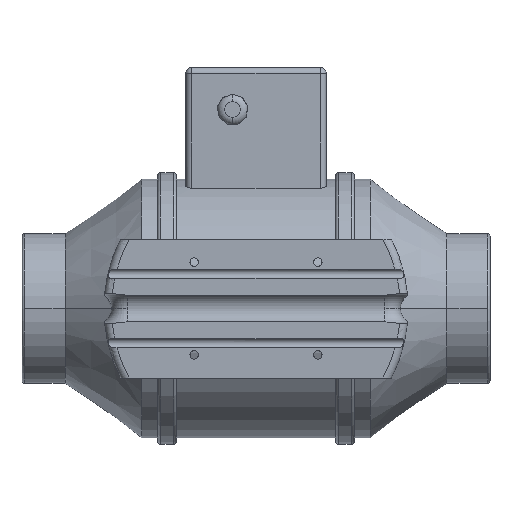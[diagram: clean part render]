
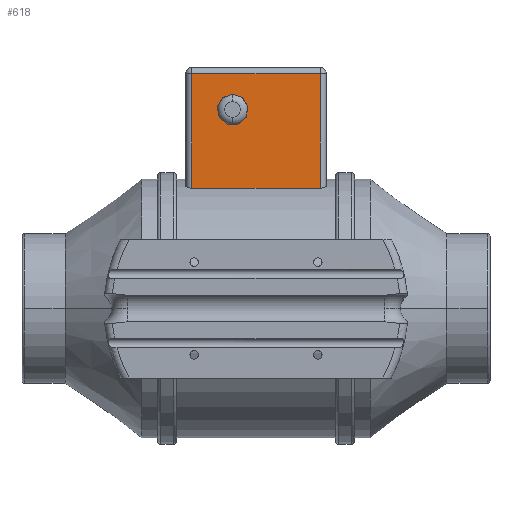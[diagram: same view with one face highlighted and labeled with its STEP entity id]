
A CAD part, front view. The second image highlights one B-rep face of the part: STEP entity #618.
In plain terms, the highlighted planar face has unit normal (0, -1, 0).
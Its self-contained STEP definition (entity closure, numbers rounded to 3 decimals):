
#618=ADVANCED_FACE('',(#1284,#1285),#1286,.T.);
#1284=FACE_OUTER_BOUND('',#1981,.T.);
#1285=FACE_BOUND('',#1982,.T.);
#1286=PLANE('',#1983);
#1981=EDGE_LOOP('',(#3893,#3894,#3895,#3896));
#1982=EDGE_LOOP('',(#3897,#3898,#3899,#3900,#3901,#3902,#3903,#3904,#3905));
#1983=AXIS2_PLACEMENT_3D('',#3906,#3907,#3908);
#3893=ORIENTED_EDGE('',*,*,#4295,.F.);
#3894=ORIENTED_EDGE('',*,*,#4971,.T.);
#3895=ORIENTED_EDGE('',*,*,#4956,.T.);
#3896=ORIENTED_EDGE('',*,*,#4917,.F.);
#3897=ORIENTED_EDGE('',*,*,#4973,.F.);
#3898=ORIENTED_EDGE('',*,*,#4974,.F.);
#3899=ORIENTED_EDGE('',*,*,#4975,.F.);
#3900=ORIENTED_EDGE('',*,*,#4976,.F.);
#3901=ORIENTED_EDGE('',*,*,#4977,.F.);
#3902=ORIENTED_EDGE('',*,*,#4978,.F.);
#3903=ORIENTED_EDGE('',*,*,#4979,.F.);
#3904=ORIENTED_EDGE('',*,*,#4980,.F.);
#3905=ORIENTED_EDGE('',*,*,#4981,.F.);
#3906=CARTESIAN_POINT('',(0.,-30.3,0.0));
#3907=DIRECTION('',(0.,-1.0,0.0));
#3908=DIRECTION('',(1.0,0.,-0.0));
#4295=EDGE_CURVE('',#5195,#5182,#5197,.T.);
#4917=EDGE_CURVE('',#5182,#6117,#6118,.T.);
#4956=EDGE_CURVE('',#6161,#6117,#6165,.T.);
#4971=EDGE_CURVE('',#5195,#6161,#6181,.T.);
#4973=EDGE_CURVE('',#6183,#6184,#6185,.T.);
#4974=EDGE_CURVE('',#6186,#6183,#6187,.T.);
#4975=EDGE_CURVE('',#6188,#6186,#6189,.T.);
#4976=EDGE_CURVE('',#6190,#6188,#6191,.T.);
#4977=EDGE_CURVE('',#6192,#6190,#6193,.T.);
#4978=EDGE_CURVE('',#6194,#6192,#6195,.T.);
#4979=EDGE_CURVE('',#6196,#6194,#6197,.T.);
#4980=EDGE_CURVE('',#6198,#6196,#6199,.T.);
#4981=EDGE_CURVE('',#6184,#6198,#6200,.T.);
#5182=VERTEX_POINT('',#6754);
#5195=VERTEX_POINT('',#6832);
#5197=LINE('',#6856,#6857);
#6117=VERTEX_POINT('',#10210);
#6118=LINE('',#10211,#10212);
#6161=VERTEX_POINT('',#10267);
#6165=LINE('',#10271,#10272);
#6181=LINE('',#10291,#10292);
#6183=VERTEX_POINT('',#10294);
#6184=VERTEX_POINT('',#10295);
#6185=LINE('',#10296,#10297);
#6186=VERTEX_POINT('',#10298);
#6187=LINE('',#10299,#10300);
#6188=VERTEX_POINT('',#10301);
#6189=LINE('',#10302,#10303);
#6190=VERTEX_POINT('',#10304);
#6191=LINE('',#10305,#10306);
#6192=VERTEX_POINT('',#10307);
#6193=LINE('',#10308,#10309);
#6194=VERTEX_POINT('',#10310);
#6195=LINE('',#10311,#10312);
#6196=VERTEX_POINT('',#10313);
#6197=LINE('',#10314,#10315);
#6198=VERTEX_POINT('',#10316);
#6199=LINE('',#10317,#10318);
#6200=LINE('',#10319,#10320);
#6754=CARTESIAN_POINT('',(-41.45,-30.3,77.916));
#6832=CARTESIAN_POINT('',(41.45,-30.3,77.916));
#6856=CARTESIAN_POINT('',(0.,-30.3,77.916));
#6857=VECTOR('',#10782,1.0);
#10210=CARTESIAN_POINT('',(-41.45,-30.3,152.0));
#10211=CARTESIAN_POINT('',(-41.45,-30.3,0.0));
#10212=VECTOR('',#11606,1.0);
#10267=CARTESIAN_POINT('',(41.45,-30.3,152.0));
#10271=CARTESIAN_POINT('',(0.,-30.3,152.0));
#10272=VECTOR('',#11658,1.0);
#10291=CARTESIAN_POINT('',(41.45,-30.3,0.0));
#10292=VECTOR('',#11674,1.0);
#10294=CARTESIAN_POINT('',(-8.722,-30.3,136.46));
#10295=CARTESIAN_POINT('',(-15.15,-30.3,138.8));
#10296=CARTESIAN_POINT('',(15.451,-30.3,127.662));
#10297=VECTOR('',#11675,1.0);
#10298=CARTESIAN_POINT('',(-5.302,-30.3,130.536));
#10299=CARTESIAN_POINT('',(22.768,-30.3,81.918));
#10300=VECTOR('',#11676,1.0);
#10301=CARTESIAN_POINT('',(-6.49,-30.3,123.8));
#10302=CARTESIAN_POINT('',(-16.68,-30.3,66.006));
#10303=VECTOR('',#11677,1.0);
#10304=CARTESIAN_POINT('',(-11.73,-30.3,119.403));
#10305=CARTESIAN_POINT('',(-36.375,-30.3,98.723));
#10306=VECTOR('',#11678,1.0);
#10307=CARTESIAN_POINT('',(-18.57,-30.3,119.403));
#10308=CARTESIAN_POINT('',(-7.575,-30.3,119.403));
#10309=VECTOR('',#11679,1.0);
#10310=CARTESIAN_POINT('',(-23.81,-30.3,123.8));
#10311=CARTESIAN_POINT('',(14.966,-30.3,91.263));
#10312=VECTOR('',#11680,1.0);
#10313=CARTESIAN_POINT('',(-24.998,-30.3,130.536));
#10314=CARTESIAN_POINT('',(-13.163,-30.3,63.415));
#10315=VECTOR('',#11681,1.0);
#10316=CARTESIAN_POINT('',(-21.578,-30.3,136.46));
#10317=CARTESIAN_POINT('',(-49.28,-30.3,88.479));
#10318=VECTOR('',#11682,1.0);
#10319=CARTESIAN_POINT('',(-32.373,-30.3,132.531));
#10320=VECTOR('',#11683,1.0);
#10782=DIRECTION('',(-1.0,-0.0,-0.0));
#11606=DIRECTION('',(0.0,0.0,1.0));
#11658=DIRECTION('',(-1.0,0.,0.));
#11674=DIRECTION('',(0.0,0.0,1.0));
#11675=DIRECTION('',(-0.94,0.,0.342));
#11676=DIRECTION('',(-0.5,0.,0.866));
#11677=DIRECTION('',(0.174,0.,0.985));
#11678=DIRECTION('',(0.766,0.,0.643));
#11679=DIRECTION('',(1.0,0.,0.));
#11680=DIRECTION('',(0.766,0.,-0.643));
#11681=DIRECTION('',(0.174,0.,-0.985));
#11682=DIRECTION('',(-0.5,0.,-0.866));
#11683=DIRECTION('',(-0.94,0.,-0.342));
